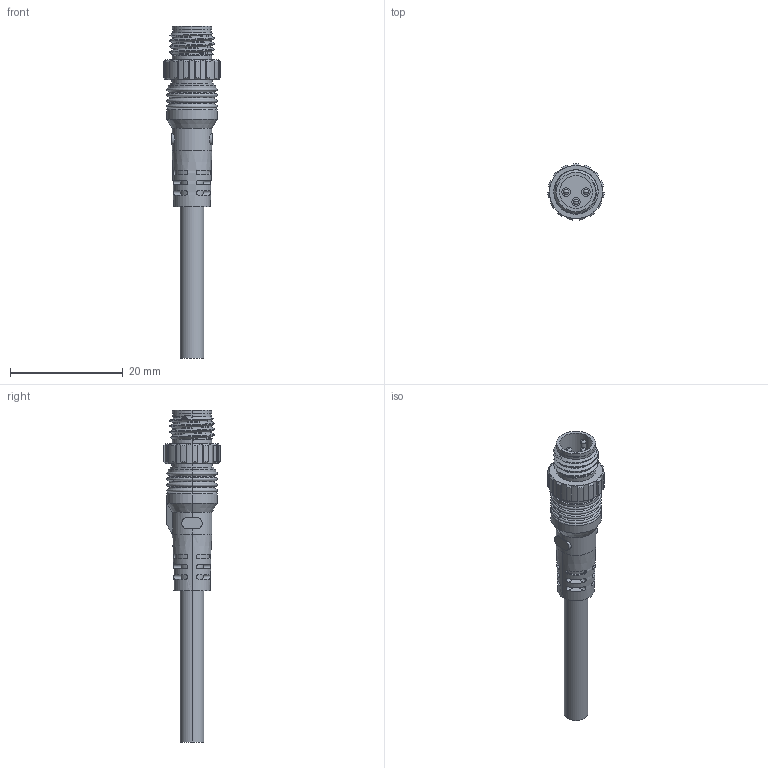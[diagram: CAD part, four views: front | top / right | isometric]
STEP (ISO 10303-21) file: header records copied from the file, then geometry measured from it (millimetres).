
FILE_DESCRIPTION (( 'STEP AP214' ), '1' );
FILE_NAME ('CM08-J3P-XXX.STEP', '2026-02-03T11:05:25', ( '' ), ( '' ), 'SwSTEP 2.0', 'SolidWorks 2024', '' );
FILE_SCHEMA (( 'AUTOMOTIVE_DESIGN' ));
Length unit declared in the file: millimetre
Products named in the file (1): CM08-J3P-XXX
Bounding box: 10 x 9.97 x 58.8 mm (x, y, z)
Volume: 1709.9 mm3; surface area: 1614.3 mm2
Topology: 1 solids, 1 shells, 236 faces, 592 edges, 377 vertices
Faces by surface type: cylinder 112, plane 76, torus 24, cone 15, sphere 6, bspline 3
Entity records: 8140 total; most frequent: CARTESIAN_POINT 2622, ORIENTED_EDGE 1160, DIRECTION 1155, EDGE_CURVE 580, AXIS2_PLACEMENT_3D 484, VERTEX_POINT 371, EDGE_LOOP 261, CIRCLE 250
